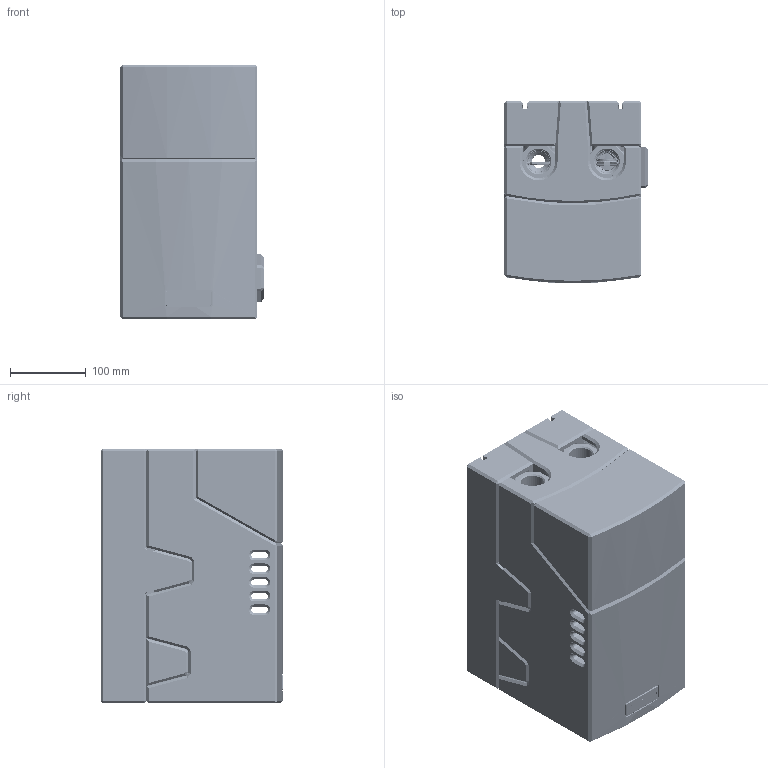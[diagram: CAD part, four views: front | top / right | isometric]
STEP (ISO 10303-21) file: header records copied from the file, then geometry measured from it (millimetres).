
FILE_DESCRIPTION (( 'STEP AP214' ), '1' );
FILE_NAME ('PrimoTherm_C_130_grupa_pompowa_77XXX_0_3D_AFRISO.STEP', '2025-11-18T14:46:45', ( '' ), ( '' ), 'SwSTEP 2.0', 'SolidWorks 2023', '' );
FILE_SCHEMA (( 'AUTOMOTIVE_DESIGN' ));
Length unit declared in the file: millimetre
Products named in the file (43): Oberteil; 05 01 001291_Haltewinkel 82x140; ZEIGER-NG40_2; 05 01 001296_Rohr VL PT 130-1; 05 01 000794_Tr_X_E4gerplatte wei_X_DF LOGO AFRISO; 05 00 410347_Distanzh_X_FClse kurz; ISO 4032-M8-10_Sechskantmuttern; Abdeckung_Thermometer; 801 018 3002_O-Ring _X_F818,0x3,0mm EPDM 70_X_B15; SCHEIBE; SCHEIBE_2; 05 01 001301_Geh_X_E4use G1i_steck. M m. therm; 801 000 0219_O-Ring _X_D823,0x2mm EPDM_2; 05 01 000684_Tr_X_E4gerplatte neutral wei_X_DF (60x2_0); GEH_X_C4USE KLAPPENVENTIL_LANG_Geh_X_E4use Klappenve_ntil; Translationsteil_0_AEI Logo; 05 01 000976_Absperrklappe Absperrventil; 05 01 000969_ Einlegebuchse G1 IG; Translationsteil_1; ZEIGER-NG40; 801 000 0140_O-Ring _X_F814,0x3,0mm EPDM 70_2; 05 01 001313_D_X_E4mmungsauflage PT C; 801 000 3230_O-Ring _X_D832x3mm; Zwischenlage; ISO 7380-2-M8x20-10.9_Flachkopfschrauben; Abdeckung_Mutter; 801 000 0140_O-Ring _X_F814,0x3,0mm EPDM 70; PrimoTherm_C_130_grupa_pompowa_77XXX_0_3D_AFRISO; HULSE; DRUCK; Unterteil; 05 01 001300_Hebel Absperrventil gekr_X_F6pft; BLATT_2; 05 01 000684_Tr_X_E4gerplatte neutral; Abdeckung_Rohr; 801 000 0219_O-Ring _X_D823,0x2mm EPDM; DRUCK_2; Abdeckung_Mischer; 05 01 000968_Welle Absperrventil; BLATT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
Assembly tree (45 placements, depth 4):
  PrimoTherm_C_130_grupa_pompowa_77XXX_0_3D_AFRISO
    05 00 410347_Distanzh_X_FClse kurz
    05 01 001291_Haltewinkel 82x140
    ISO 7380-2-M8x20-10.9_Flachkopfschrauben
    ISO 4032-M8-10_Sechskantmuttern
    05 01 001313_D_X_E4mmungsauflage PT C
    801 018 3002_O-Ring _X_F818,0x3,0mm EPDM 70_X_B15
    801 000 0140_O-Ring _X_F814,0x3,0mm EPDM 70
    05 01 001300_Hebel Absperrventil gekr_X_F6pft  x2
    801 000 0219_O-Ring _X_D823,0x2mm EPDM
    GEH_X_C4USE KLAPPENVENTIL_LANG_Geh_X_E4use Klappenve_ntil
    05 01 000684_Tr_X_E4gerplatte neutral
    801 000 0219_O-Ring _X_D823,0x2mm EPDM_2
    05 01 001296_Rohr VL PT 130-1
    HULSE
    SCHEIBE
    BLATT
    DRUCK
    ZEIGER-NG40
    HULSE_2
    SCHEIBE_2
    BLATT_2
    DRUCK_2
    ZEIGER-NG40_2
    801 000 0140_O-Ring _X_F814,0x3,0mm EPDM 70_2
    05 01 000968_Welle Absperrventil  x2
    05 01 000976_Absperrklappe Absperrventil
    05 01 000969_ Einlegebuchse G1 IG  x2
      05 01 000969_ Einlegebuchse G1 IG
      801 000 3230_O-Ring _X_D832x3mm
    05 01 000794_Tr_X_E4gerplatte wei_X_DF LOGO AFRISO
      Translationsteil_1
      05 01 000684_Tr_X_E4gerplatte neutral wei_X_DF (60x2_0)
        05 01 000684_Tr_X_E4gerplatte neutral wei_X_DF (60x2_0)
        Translationsteil_0_AEI Logo
    05 01 001301_Geh_X_E4use G1i_steck. M m. therm
    Abdeckung_Mischer
    Zwischenlage
    Abdeckung_Mutter
    Abdeckung_Rohr
    Unterteil
    Oberteil
    Abdeckung_Thermometer
Bounding box: 188.5 x 240.1 x 335 mm (x, y, z)
Volume: 7031140.8 mm3; surface area: 1104622.8 mm2
Topology: 231 solids, 232 shells, 10276 faces, 26735 edges, 17071 vertices
Faces by surface type: plane 5422, cylinder 2394, bspline 2063, cone 353, torus 44
Full cylindrical faces by diameter (mm): 30.091 x1
Entity records: 529091 total; most frequent: CARTESIAN_POINT 313311, ORIENTED_EDGE 49077, DIRECTION 36708, EDGE_CURVE 24542, VERTEX_POINT 15734, AXIS2_PLACEMENT_3D 12465, LINE 11778, VECTOR 11778
